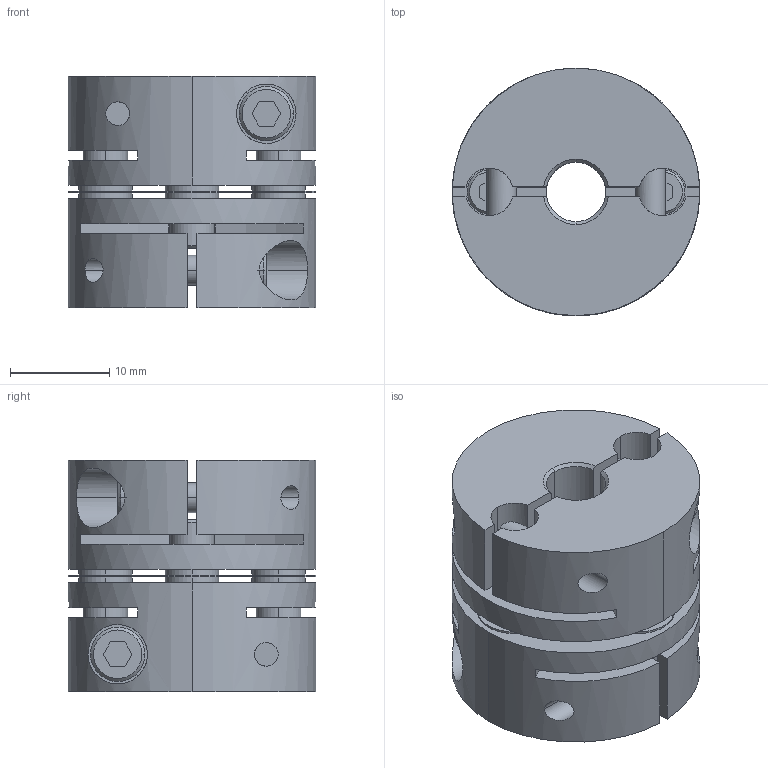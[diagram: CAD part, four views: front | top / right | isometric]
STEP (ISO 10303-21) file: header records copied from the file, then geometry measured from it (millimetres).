
FILE_DESCRIPTION((''),'2;1');
FILE_NAME('LAS-25C-6×6.35.stp','2011-08-10T10:17:24',(''),(''),'AutoCAD STEP 2000i','AutoCAD 2000i',', , ');
FILE_SCHEMA(('CONFIG_CONTROL_DESIGN'));
Length unit declared in the file: millimetre
Products named in the file (5): LAS-25C-6×6; 忣兜1; LA-2502-D06-1; LA-2502-D06; LAS25-ITA
Assembly tree (4 placements, depth 2):
  LAS-25C-6×6
    忣兜1
    LA-2502-D06-1
    LA-2502-D06
    LAS25-ITA
Bounding box: 25 x 25 x 23.4 mm (x, y, z)
Volume: 8831.2 mm3; surface area: 6932 mm2
Topology: 1 solids, 1 shells, 244 faces, 648 edges, 424 vertices
Faces by surface type: plane 112, cylinder 104, cone 28
Entity records: 8499 total; most frequent: CARTESIAN_POINT 2121, DIRECTION 1326, ORIENTED_EDGE 1296, EDGE_CURVE 648, AXIS2_PLACEMENT_3D 485, VERTEX_POINT 424, VECTOR 356, LINE 356
